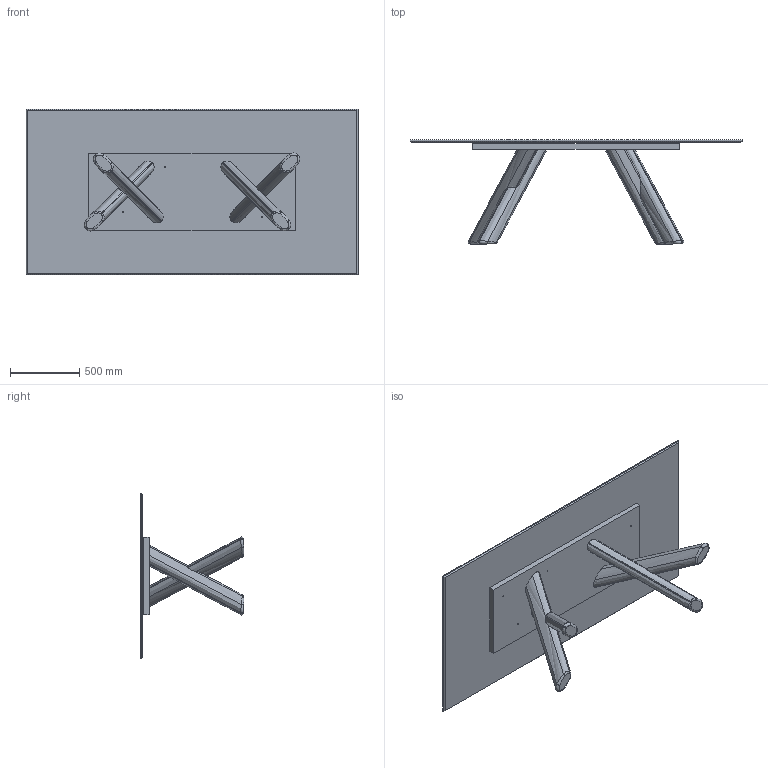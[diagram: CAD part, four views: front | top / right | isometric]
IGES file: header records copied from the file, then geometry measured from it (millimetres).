
Start section: SolidWorks IGES file using analytic representation for surfaces
Global section: file name: Y:\eforma\TECNICO\SOLIDWORKS\E-FORMA\1-TAVOLI\CANOVA\08 modelli 3D web\CN22C_CANOVA_top ceramica 239x119x75h.IGS; native system: SolidWorks 2022; preprocessor: SolidWorks 2022; author: eforma.tech; date: 250415.090507; units: millimetre
Bounding box: 2390 x 748 x 1190 mm (x, y, z)
Volume: 116756166.6 mm3; surface area: 9062334 mm2
Topology: 6 solids, 6 shells, 164 faces, 394 edges, 248 vertices
Faces by surface type: revolution 98, bspline 36, plane 30
